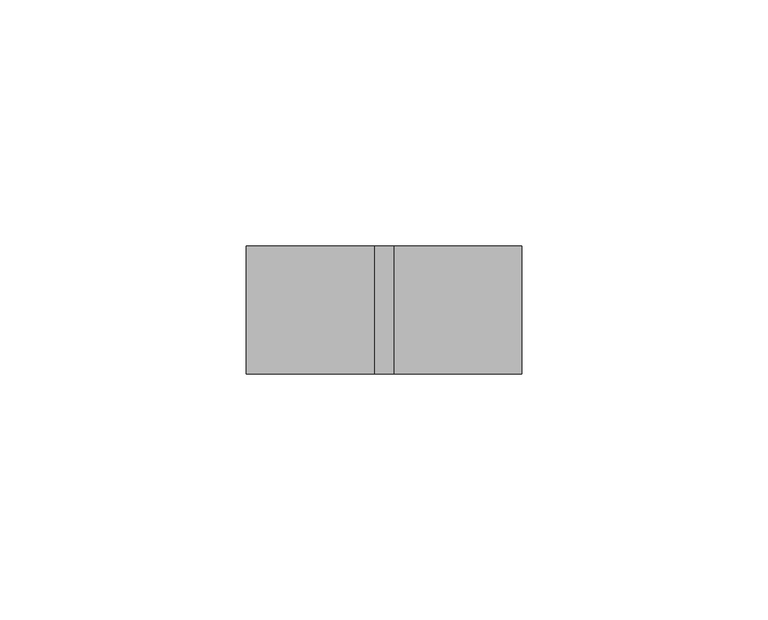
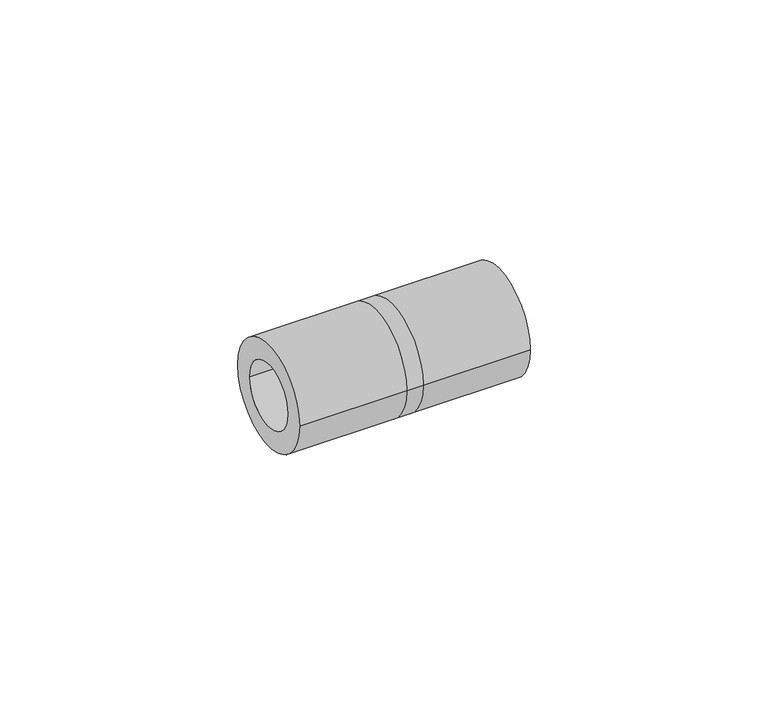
"""IFC4 building model written with IfcOpenShell, lengths in millimetres: cable carrier fitting geometry."""

from ifc_helpers import new_model, si_unit, frame, origin, place, context, project, spatial, polyline, circle_curve, source, transform, mapped, element, save
from ifc_brep_helpers import plane_surface, cylinder_surface, revolved_surface, advanced_brep


def cable_carrier_fitting_3006681f(model_context):
    return source(origin(), model_context, "Body", "AdvancedBrep", [
        advanced_brep(
        [(-28.0, -13.0, 0.0), (-28.0, 13.0, 0.0), (-28.0, -8.0, 0.0), (-28.0, 8.0, 0.0), (-2.0, 8.0, 0.0), (-2.0, -8.0, 0.0), (-2.0, 13.0, 0.0), (-2.0, -13.0, 0.0), (2.0, -8.0, 0.0), (2.0, 8.0, 0.0), (2.0, -13.0, 0.0), (2.0, 13.0, 0.0), (28.0, -13.0, 0.0), (28.0, 13.0, 0.0), (28.0, -8.0, 0.0), (28.0, 8.0, 0.0)],
        [
            (0, 1, circle_curve(frame((-28.0, 0.0, 0.0), z_axis=(-1.0, 0.0, 0.0), x_axis=(0.0, 1.0, 0.0)), 13.0)),
            (1, 0, circle_curve(frame((-28.0, 0.0, 0.0), z_axis=(-1.0, 0.0, 0.0), x_axis=(0.0, 1.0, 0.0)), 13.0)),
            (2, 3, circle_curve(frame((-28.0, 0.0, 0.0), z_axis=(1.0, 0.0, 0.0), x_axis=(0.0, 1.0, 0.0)), 8.0)),
            (3, 2, circle_curve(frame((-28.0, 0.0, 0.0), z_axis=(1.0, 0.0, 0.0), x_axis=(0.0, 1.0, 0.0)), 8.0)),
            (3, 4),
            (4, 5, circle_curve(frame((-2.0, 0.0, 0.0), z_axis=(1.0, 0.0, 0.0), x_axis=(0.0, 1.0, 0.0)), 8.0)),
            (5, 2),
            (5, 4, circle_curve(frame((-2.0, 0.0, 0.0), z_axis=(1.0, 0.0, 0.0), x_axis=(0.0, 1.0, 0.0)), 8.0)),
            (1, 6),
            (6, 7, circle_curve(frame((-2.0, 0.0, 0.0), z_axis=(-1.0, 0.0, 0.0), x_axis=(0.0, 1.0, 0.0)), 13.0)),
            (7, 0),
            (7, 6, circle_curve(frame((-2.0, 0.0, 0.0), z_axis=(-1.0, 0.0, 0.0), x_axis=(0.0, 1.0, 0.0)), 13.0)),
            (5, 8),
            (8, 9, circle_curve(frame((2.0, 0.0, 0.0), z_axis=(1.0, 0.0, 0.0), x_axis=(0.0, 1.0, 0.0)), 8.0)),
            (9, 4),
            (9, 8, circle_curve(frame((2.0, 0.0, 0.0), z_axis=(1.0, 0.0, 0.0), x_axis=(0.0, 1.0, 0.0)), 8.0)),
            (7, 10),
            (10, 11, circle_curve(frame((2.0, 0.0, 0.0), z_axis=(-1.0, 0.0, 0.0), x_axis=(0.0, 1.0, 0.0)), 13.0)),
            (11, 6),
            (11, 10, circle_curve(frame((2.0, 0.0, 0.0), z_axis=(-1.0, 0.0, 0.0), x_axis=(0.0, 1.0, 0.0)), 13.0)),
            (12, 13, circle_curve(frame((28.0, 0.0, 0.0), z_axis=(1.0, 0.0, 0.0), x_axis=(0.0, 1.0, 0.0)), 13.0)),
            (13, 12, circle_curve(frame((28.0, 0.0, 0.0), z_axis=(1.0, 0.0, 0.0), x_axis=(0.0, 1.0, 0.0)), 13.0)),
            (14, 15, circle_curve(frame((28.0, 0.0, 0.0), z_axis=(-1.0, 0.0, 0.0), x_axis=(0.0, 1.0, 0.0)), 8.0)),
            (15, 14, circle_curve(frame((28.0, 0.0, 0.0), z_axis=(-1.0, 0.0, 0.0), x_axis=(0.0, 1.0, 0.0)), 8.0)),
            (13, 11),
            (10, 12),
            (15, 9),
            (8, 14),
        ],
        [
            plane_surface(frame((-28.0, 0.0, 0.0), z_axis=(-1.0, 0.0, 0.0), x_axis=(0.0, 0.0, 1.0))),
            revolved_surface(polyline([(-2.0, 8.0, 0.0), (-28.0, 8.0, 0.0)]), (-28.0, 0.0, 0.0), (1.0, 0.0, 0.0)),
            cylinder_surface(frame((-28.0, 0.0, 0.0), z_axis=(-1.0, 0.0, 0.0), x_axis=(0.0, 1.0, 0.0)), 13.0),
            revolved_surface(polyline([(2.0, 8.0, 0.0), (-2.0, 8.0, 0.0)]), (-2.0, 0.0, 0.0), (1.0, 0.0, 0.0)),
            cylinder_surface(frame((-2.0, 0.0, 0.0), z_axis=(-1.0, 0.0, 0.0), x_axis=(0.0, 1.0, 0.0)), 13.0),
            plane_surface(frame((28.0, 0.0, 0.0), z_axis=(1.0, 0.0, 0.0), x_axis=(0.0, 0.0, 1.0))),
            cylinder_surface(frame((2.0, 0.0, 0.0), z_axis=(-1.0, 0.0, 0.0), x_axis=(0.0, 1.0, 0.0)), 13.0),
            revolved_surface(polyline([(28.0, 8.0, 0.0), (2.0, 8.0, 0.0)]), (2.0, 0.0, 0.0), (1.0, 0.0, 0.0)),
        ],
        [
            (0, [[1, 2], [3, 4]]),
            (1, [[-4, 5, 6, 7]]),
            (1, [[-3, -7, 8, -5]]),
            (2, [[-2, 9, 10, 11]]),
            (2, [[-1, -11, 12, -9]]),
            (3, [[13, 14, 15, -8]]),
            (3, [[-13, -6, -15, 16]]),
            (4, [[17, 18, 19, -12]]),
            (4, [[-17, -10, -19, 20]]),
            (5, [[21, 22], [23, 24]]),
            (6, [[-22, 25, -18, 26]]),
            (6, [[-21, -26, -20, -25]]),
            (7, [[-24, 27, -14, 28]]),
            (7, [[-23, -28, -16, -27]]),
        ],
    ),
    ])


if __name__ == "__main__":
    model = new_model("IFC4")
    model_context = context("Model", 3, world=origin())
    ifc_project = project(units=[si_unit("LENGTHUNIT", "METRE", prefix="MILLI")], contexts=[model_context])
    site = spatial("IfcSite", under=ifc_project)
    building = spatial("IfcBuilding", under=site)
    placement = place(None, origin())
    cable_carrier_fitting_shape = cable_carrier_fitting_3006681f(model_context)
    element("IfcCableCarrierFitting", 1, at=placement, inside=building, context=model_context, shape_type="MappedRepresentation", body=[
        mapped(cable_carrier_fitting_shape, transform((0.0, 0.0, 0.0), x_axis=(1.0, 0.0, 0.0), y_axis=(0.0, 1.0, 0.0), z_axis=(0.0, 0.0, 1.0))),
    ])
    save(model, "model.ifc")
